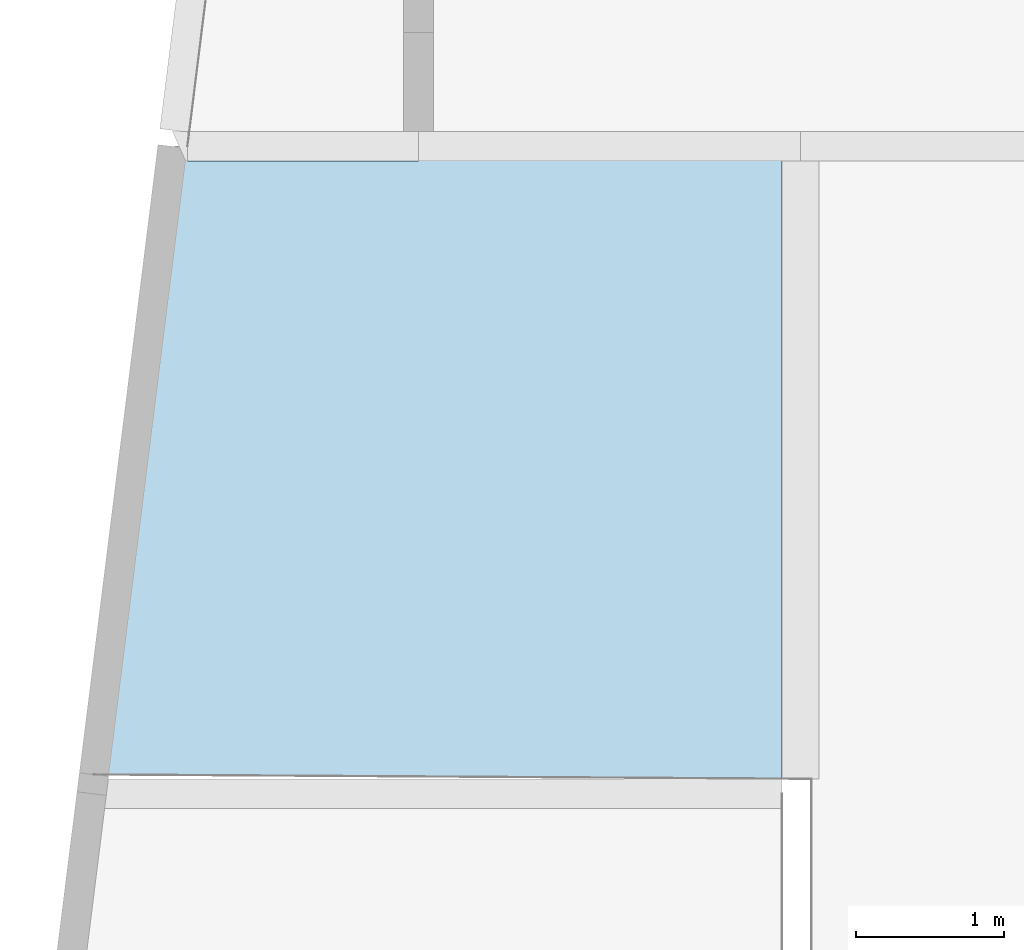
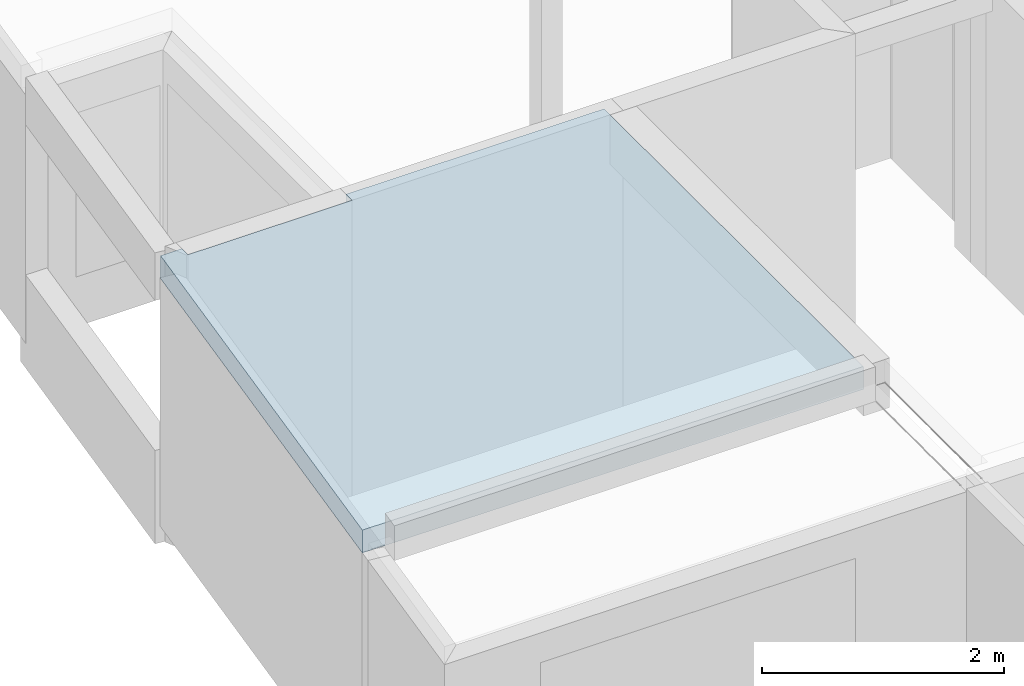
# One storey, part 8 of 8: 1 slab.
"""IFC2X3 building model written with IfcOpenShell, lengths in metres."""

from ifc_helpers import new_model, si_unit, direction, frame, origin_with_axes, place, context, subcontext, project, spatial, faceted_brep, material, element, save


model = new_model("IFC2X3")

# Units and contexts
model_context = context("Model", 3, precision=0.0001, world=origin_with_axes(), true_north=direction((0.0, 1.0)))
plan_context = context("Plan", 2, precision=0.0001, world=origin_with_axes(), true_north=direction((0.0, 1.0)))
body_context = subcontext(model_context, "Body", "Model", "MODEL_VIEW")
ifc_project = project(units=[si_unit("MASSUNIT", "GRAM", prefix="KILO"), si_unit("AREAUNIT", "SQUARE_METRE"), si_unit("LENGTHUNIT", "METRE"), si_unit("VOLUMEUNIT", "CUBIC_METRE")], contexts=[plan_context, model_context])

# Site, building, storey
site_placement = place(None, origin_with_axes())
site = spatial("IfcSite", under=ifc_project, at=site_placement, Name="$", CompositionType="ELEMENT")
building_placement = place(site_placement, origin_with_axes())
building = spatial("IfcBuilding", under=site, at=building_placement, Name="Classeur ENS Ensemble", CompositionType="ELEMENT")
storey_placement = place(building_placement, frame((-20.30778888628, -1.812671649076, 3.3), z_axis=(0.0, 0.0, 1.0), x_axis=(1.0, 0.0, 0.0)))
storey = spatial("IfcBuildingStorey", under=building, at=storey_placement, Name="002 R+1", CompositionType="ELEMENT", Elevation=3.3)

# Slab
ifc_material = material(Name="Default material")
slab_placement = place(storey_placement, frame((18.85746092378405, -9.937262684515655, 2.73), z_axis=(0.0, 0.0, 1.0), x_axis=(1.0, 0.0, 0.0)))
element("IfcSlab", 1, at=slab_placement, inside=storey, material=ifc_material, Name="Dalle BA 23 cm", PredefinedType="FLOOR", context=body_context, shape_type="Brep", held_by="IfcProductRepresentation", body=[
    faceted_brep([(0.7334688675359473, 4.149937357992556, -0.2300000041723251), (0.5319085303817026, 4.249937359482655, -0.2300000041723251), (0.7334688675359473, 4.249937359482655, -0.2300000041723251), (2.296775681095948, 4.149937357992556, -0.2300000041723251), (4.755934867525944, -0.02884944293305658, -0.2300000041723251), (0.0, 0.0, -0.2300000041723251), (4.755934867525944, 4.249937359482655, -0.2300000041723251), (2.296775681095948, 4.149937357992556, -0.2300000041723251), (2.296775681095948, 4.249937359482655, -0.2300000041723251), (0.0, 0.0, 0.0), (0.5319085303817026, 4.249937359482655, 0.0), (0.5319085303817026, 4.249937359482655, -0.2300000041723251), (0.0, 0.0, -0.2300000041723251), (2.296775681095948, 4.249937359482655, 0.0), (4.755934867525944, 4.249937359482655, 0.0), (4.755934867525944, 4.249937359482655, -0.2300000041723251), (2.296775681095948, 4.249937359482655, -0.2300000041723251), (0.7334688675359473, 4.249937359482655, 0.0), (0.7334688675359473, 4.149937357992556, 0.0), (0.7334688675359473, 4.149937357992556, -0.2300000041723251), (0.7334688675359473, 4.249937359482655, -0.2300000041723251), (4.755934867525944, 4.249937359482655, 0.0), (4.755934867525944, -0.02884944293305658, 0.0), (4.755934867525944, -0.02884944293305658, -0.2300000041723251), (4.755934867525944, 4.249937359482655, -0.2300000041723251), (4.755934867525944, -0.02884944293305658, -0.2300000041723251), (2.296775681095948, 4.149937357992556, -0.2300000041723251), (4.755934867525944, 4.249937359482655, -0.2300000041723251), (0.7334688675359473, 4.149937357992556, 0.0), (2.296775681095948, 4.149937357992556, 0.0), (2.296775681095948, 4.149937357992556, -0.2300000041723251), (0.7334688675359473, 4.149937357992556, -0.2300000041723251), (2.296775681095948, 4.249937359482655, 0.0), (2.296775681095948, 4.149937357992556, 0.0), (4.755934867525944, 4.249937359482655, 0.0), (0.7334688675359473, 4.149937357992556, 0.0), (0.0, 0.0, 0.0), (2.296775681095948, 4.149937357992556, 0.0), (4.755934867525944, -0.02884944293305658, 0.0), (0.0, 0.0, 0.0), (0.0, 0.0, -0.2300000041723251), (4.755934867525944, -0.02884944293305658, -0.2300000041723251), (4.755934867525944, 4.249937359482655, 0.0), (2.296775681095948, 4.149937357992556, 0.0), (4.755934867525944, -0.02884944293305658, 0.0), (2.296775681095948, 4.149937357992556, 0.0), (2.296775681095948, 4.249937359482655, 0.0), (2.296775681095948, 4.249937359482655, -0.2300000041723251), (2.296775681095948, 4.149937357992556, -0.2300000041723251), (2.296775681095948, 4.149937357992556, -0.2300000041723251), (0.0, 0.0, -0.2300000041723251), (0.7334688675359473, 4.149937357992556, -0.2300000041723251), (0.7334688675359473, 4.149937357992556, -0.2300000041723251), (0.0, 0.0, -0.2300000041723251), (0.5319085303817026, 4.249937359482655, -0.2300000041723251), (0.0, 0.0, 0.0), (4.755934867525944, -0.02884944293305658, 0.0), (2.296775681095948, 4.149937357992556, 0.0), (0.5319085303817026, 4.249937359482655, 0.0), (0.0, 0.0, 0.0), (0.7334688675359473, 4.149937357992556, 0.0), (0.5319085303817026, 4.249937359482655, 0.0), (0.7334688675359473, 4.249937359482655, 0.0), (0.7334688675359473, 4.249937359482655, -0.2300000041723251), (0.5319085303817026, 4.249937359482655, -0.2300000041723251), (0.7334688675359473, 4.249937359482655, 0.0), (0.5319085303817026, 4.249937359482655, 0.0), (0.7334688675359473, 4.149937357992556, 0.0)], [[[0, 1, 2]], [[3, 4, 5]], [[6, 7, 8]], [[9, 10, 11, 12]], [[13, 14, 15, 16]], [[17, 18, 19, 20]], [[21, 22, 23, 24]], [[25, 26, 27]], [[28, 29, 30, 31]], [[32, 33, 34]], [[35, 36, 37]], [[38, 39, 40, 41]], [[42, 43, 44]], [[45, 46, 47, 48]], [[49, 50, 51]], [[52, 53, 54]], [[55, 56, 57]], [[58, 59, 60]], [[61, 62, 63, 64]], [[65, 66, 67]]]),
])

save(model, "model.ifc")
